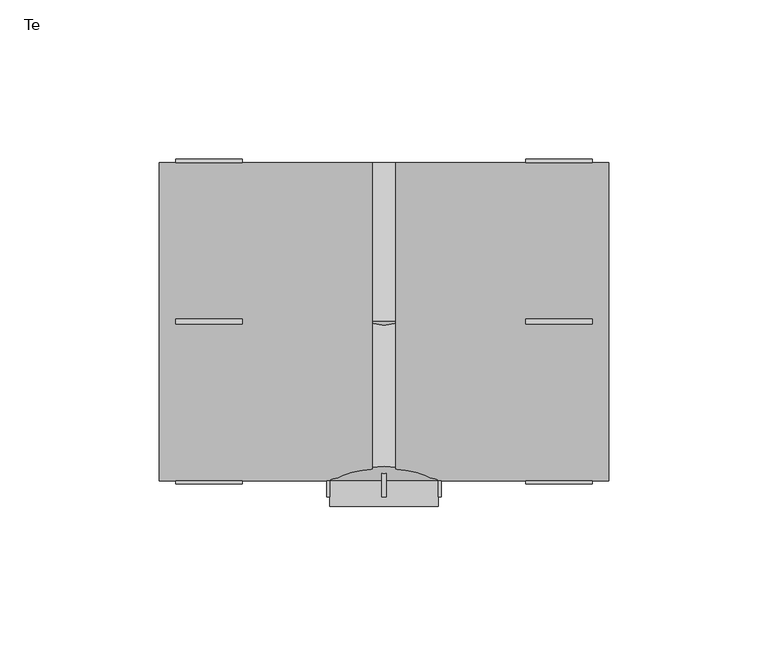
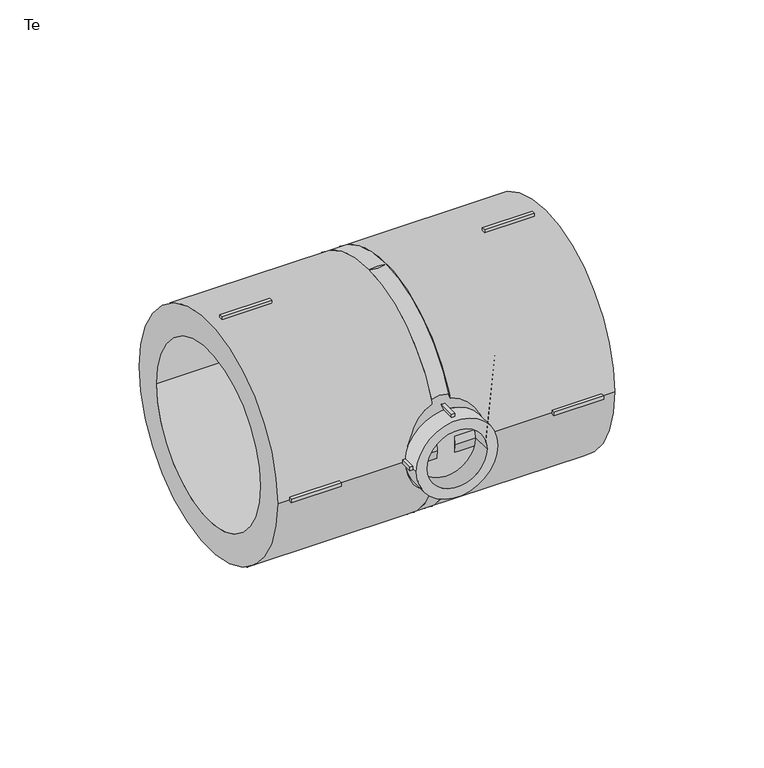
"""IFC4 building model written with IfcOpenShell, lengths in millimetres: pipe fitting geometry, EGB_VASEN_ PPR_Te WXR300_Te reducida WXR310 : Te."""

from ifc_helpers import new_model, si_unit, point, frame, origin, origin_2d, place, context, project, spatial, polyline, circle_curve, trimmed, segment, composite_curve, outline, extrude, source, transform, mapped, element, save
from ifc_brep_helpers import plane_surface, revolved_surface, advanced_brep


def te_e1a4e051(model_context):
    return source(origin(), model_context, "Body", "SolidModel", [
        extrude(outline(polyline([(-0.75, -43.0), (0.75, -43.0), (0.75, -55.0), (-0.75, -55.0), (-0.75, -43.0)])), frame((0.0, 0.0, 16.0), z_axis=(0.0, 0.0, 1.0), x_axis=(1.0, 0.0, 0.0)), (0.0, 0.0, 1.0), 2.0),
        extrude(outline(polyline([(-0.75, -43.0), (0.75, -43.0), (0.75, -55.0), (-0.75, -55.0), (-0.75, -43.0)])), frame((0.0, 0.0, -18.0), z_axis=(0.0, 0.0, 1.0), x_axis=(1.0, 0.0, 0.0)), (0.0, 0.0, 1.0), 2.0),
        extrude(outline(polyline([(16.0, -43.0), (18.0, -43.0), (18.0, -55.0), (16.0, -55.0), (16.0, -43.0)])), frame((0.0, 0.0, -0.75), z_axis=(0.0, 0.0, 1.0), x_axis=(1.0, 0.0, 0.0)), (0.0, 0.0, 1.0), 1.5),
        extrude(outline(polyline([(-18.0, -43.0), (-16.0, -43.0), (-16.0, -55.0), (-18.0, -55.0), (-18.0, -43.0)])), frame((0.0, 0.0, -0.75), z_axis=(0.0, 0.0, 1.0), x_axis=(1.0, 0.0, 0.0)), (0.0, 0.0, 1.0), 1.5),
        extrude(outline(polyline([(44.5, -0.75), (44.5, 0.75), (65.3, 0.75), (65.3, -0.75), (44.5, -0.75)])), frame((0.0, 0.0, 49.0), z_axis=(0.0, 0.0, 1.0), x_axis=(1.0, 0.0, 0.0)), (0.0, 0.0, 1.0), 2.0),
        extrude(outline(polyline([(44.5, -0.75), (44.5, 0.75), (65.3, 0.75), (65.3, -0.75), (44.5, -0.75)])), frame((0.0, 0.0, -51.0), z_axis=(0.0, 0.0, 1.0), x_axis=(1.0, 0.0, 0.0)), (0.0, 0.0, 1.0), 2.0),
        extrude(outline(polyline([(44.5, 49.0), (44.5, 51.0), (65.3, 51.0), (65.3, 49.0), (44.5, 49.0)])), frame((0.0, 0.0, -0.75), z_axis=(0.0, 0.0, 1.0), x_axis=(1.0, 0.0, 0.0)), (0.0, 0.0, 1.0), 1.5),
        extrude(outline(polyline([(44.5, -51.0), (44.5, -49.0), (65.3, -49.0), (65.3, -51.0), (44.5, -51.0)])), frame((0.0, 0.0, -0.75), z_axis=(0.0, 0.0, 1.0), x_axis=(1.0, 0.0, 0.0)), (0.0, 0.0, 1.0), 1.5),
        extrude(outline(polyline([(-44.5, 0.75), (-44.5, -0.75), (-65.3, -0.75), (-65.3, 0.75), (-44.5, 0.75)])), frame((0.0, 0.0, 49.0), z_axis=(0.0, 0.0, 1.0), x_axis=(1.0, 0.0, 0.0)), (0.0, 0.0, 1.0), 2.0),
        extrude(outline(polyline([(-44.5, 0.75), (-44.5, -0.75), (-65.3, -0.75), (-65.3, 0.75), (-44.5, 0.75)])), frame((0.0, 0.0, -51.0), z_axis=(0.0, 0.0, 1.0), x_axis=(1.0, 0.0, 0.0)), (0.0, 0.0, 1.0), 2.0),
        extrude(outline(polyline([(-44.5, 51.0), (-44.5, 49.0), (-65.3, 49.0), (-65.3, 51.0), (-44.5, 51.0)])), frame((0.0, 0.0, -0.75), z_axis=(0.0, 0.0, 1.0), x_axis=(1.0, 0.0, 0.0)), (0.0, 0.0, 1.0), 1.5),
        extrude(outline(polyline([(-44.5, -49.0), (-44.5, -51.0), (-65.3, -51.0), (-65.3, -49.0), (-44.5, -49.0)])), frame((0.0, 0.0, -0.75), z_axis=(0.0, 0.0, 1.0), x_axis=(1.0, 0.0, 0.0)), (0.0, 0.0, 1.0), 1.5),
        extrude(outline(composite_curve([segment(trimmed(circle_curve(origin_2d(), 17.0), [point((0.0, 17.0))], [point((0.0, -17.0))], False, "CARTESIAN"), True, "CONTINUOUS"), segment(trimmed(circle_curve(origin_2d(), 17.0), [point((0.0, -17.0))], [point((0.0, 17.0))], False, "CARTESIAN"), True, "CONTINUOUS")], self_intersect=False), holes=[composite_curve([segment(trimmed(circle_curve(origin_2d(), 12.5), [point((0.0, 12.5))], [point((0.0, -12.5))], True, "CARTESIAN"), True, "CONTINUOUS"), segment(trimmed(circle_curve(origin_2d(), 12.5), [point((0.0, -12.5))], [point((0.0, 12.5))], True, "CARTESIAN"), True, "CONTINUOUS")], self_intersect=False)]), frame((0.0, -58.0, 0.0), z_axis=(0.0, 1.0, 0.0), x_axis=(0.0, 0.0, 1.0)), (0.0, 0.0, 1.0), 8.0),
        extrude(outline(composite_curve([segment(trimmed(circle_curve(origin_2d(), 50.0), [point((-50.0, 0.0))], [point((50.0, 0.0))], False, "CARTESIAN"), True, "CONTINUOUS"), segment(trimmed(circle_curve(origin_2d(), 50.0), [point((50.0, 0.0))], [point((-50.0, 0.0))], False, "CARTESIAN"), True, "CONTINUOUS")], self_intersect=False), holes=[composite_curve([segment(trimmed(circle_curve(origin_2d(), 37.5), [point((-37.5, 0.0))], [point((37.5, 0.0))], True, "CARTESIAN"), True, "CONTINUOUS"), segment(trimmed(circle_curve(origin_2d(), 37.5), [point((37.5, 0.0))], [point((-37.5, 0.0))], True, "CARTESIAN"), True, "CONTINUOUS")], self_intersect=False)]), frame((3.72, 0.0, 0.0), z_axis=(1.0, 0.0, 0.0), x_axis=(0.0, 1.0, 0.0)), (0.0, 0.0, 1.0), 66.78),
        extrude(outline(composite_curve([segment(trimmed(circle_curve(origin_2d(), 50.0), [point((-50.0, 0.0))], [point((50.0, 0.0))], False, "CARTESIAN"), True, "CONTINUOUS"), segment(trimmed(circle_curve(origin_2d(), 50.0), [point((50.0, 0.0))], [point((-50.0, 0.0))], False, "CARTESIAN"), True, "CONTINUOUS")], self_intersect=False), holes=[composite_curve([segment(trimmed(circle_curve(origin_2d(), 37.5), [point((-37.5, 0.0))], [point((37.5, 0.0))], True, "CARTESIAN"), True, "CONTINUOUS"), segment(trimmed(circle_curve(origin_2d(), 37.5), [point((37.5, 0.0))], [point((-37.5, 0.0))], True, "CARTESIAN"), True, "CONTINUOUS")], self_intersect=False)]), frame((-70.5, 0.0, 0.0), z_axis=(1.0, 0.0, 0.0), x_axis=(0.0, 1.0, 0.0)), (0.0, 0.0, 1.0), 66.78),
        advanced_brep(
        [(50.0, 0.0, 0.0), (-50.0, 0.0, 0.0), (17.0, -50.0, 0.0), (-17.0, -50.0, 0.0)],
        [
            (0, 1, circle_curve(frame((0.0, 0.0, 0.0), z_axis=(0.0, 1.0, 0.0), x_axis=(1.0, 0.0, 0.0)), 50.0)),
            (1, 0, circle_curve(frame((0.0, 0.0, 0.0), z_axis=(0.0, 1.0, 0.0), x_axis=(-1.0, 0.0, 0.0)), 50.0)),
            (2, 3, circle_curve(frame((0.0, -50.0, 0.0), z_axis=(0.0, -1.0, 0.0), x_axis=(-1.0, 0.0, 0.0)), 17.0)),
            (3, 2, circle_curve(frame((0.0, -50.0, 0.0), z_axis=(0.0, -1.0, 0.0), x_axis=(1.0, 0.0, 0.0)), 17.0)),
            (3, 1),
            (0, 2),
        ],
        [
            plane_surface(frame((0.0, 0.0, 0.0), z_axis=(0.0, 1.0, 0.0), x_axis=(0.0, 0.0, -1.0))),
            plane_surface(frame((0.0, -50.0, 0.0), z_axis=(0.0, -1.0, 0.0), x_axis=(0.0, 0.0, -1.0))),
            revolved_surface(polyline([(-17.000000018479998, -50.0, 0.0), (-50.0, 0.0, 0.0)]), (0.0, -75.7575758, 0.0), (0.0, 1.0, 0.0)),
            revolved_surface(polyline([(17.000000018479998, -50.0, 0.0), (50.0, 0.0, 0.0)]), (0.0, -75.7575758, 0.0), (0.0, 1.0, 0.0)),
        ],
        [
            (0, [[1, 2]]),
            (1, [[3, 4]]),
            (2, [[-4, 5, -1, 6]]),
            (3, [[-3, -6, -2, -5]]),
        ],
    ),
        extrude(outline(composite_curve([segment(trimmed(circle_curve(origin_2d(), 50.0), [point((-50.0, 0.0))], [point((50.0, 0.0))], False, "CARTESIAN"), True, "CONTINUOUS"), segment(trimmed(circle_curve(origin_2d(), 50.0), [point((50.0, 0.0))], [point((-50.0, 0.0))], False, "CARTESIAN"), True, "CONTINUOUS")], self_intersect=False)), frame((-3.72, 0.0, 0.0), z_axis=(1.0, 0.0, 0.0), x_axis=(0.0, 1.0, 0.0)), (0.0, 0.0, 1.0), 7.44),
    ])


if __name__ == "__main__":
    model = new_model("IFC4")
    model_context = context("Model", 3, world=origin())
    ifc_project = project(units=[si_unit("LENGTHUNIT", "METRE", prefix="MILLI")], contexts=[model_context])
    site = spatial("IfcSite", under=ifc_project)
    building = spatial("IfcBuilding", under=site)
    placement = place(None, origin())
    te_shape = te_e1a4e051(model_context)
    element("IfcPipeFitting", 1, ObjectType="EGB_VASEN_ PPR_Te WXR300_Te reducida WXR310 : Te", at=placement, inside=building, context=model_context, shape_type="MappedRepresentation", body=[
        mapped(te_shape, transform((0.0, 0.0, 0.0), x_axis=(1.0, 0.0, 0.0), y_axis=(0.0, 1.0, 0.0), z_axis=(0.0, 0.0, 1.0))),
    ])
    save(model, "model.ifc")
